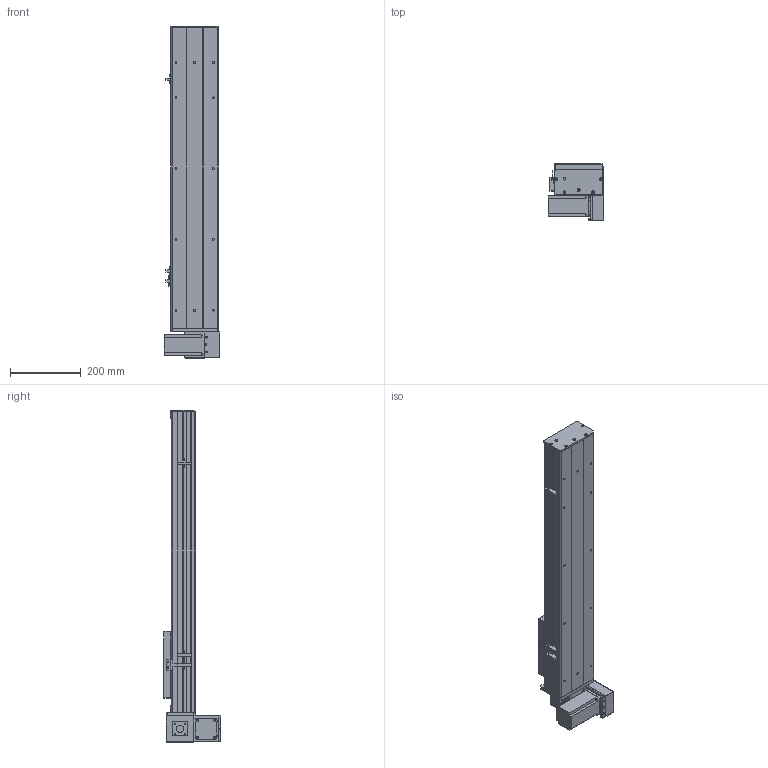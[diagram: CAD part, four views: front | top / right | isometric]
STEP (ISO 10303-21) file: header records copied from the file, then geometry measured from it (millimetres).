
FILE_DESCRIPTION (( 'STEP AP203' ), '1' );
FILE_NAME ('Y135CB-D90-S550-BM-P400W.STEP', '2020-02-18T09:20:14', ( '微软用户' ), ( '微软中国' ), 'SwSTEP 2.0', 'SolidWorks 2017', '' );
FILE_SCHEMA (( 'CONFIG_CONTROL_DESIGN' ));
Length unit declared in the file: millimetre
Products named in the file (18): Y10B--々湍喘謫眊--666; san松下电机400不带刹车----; 00B-俋欶BM--; 5CB --掛极耜裔啣-; Y10B-耜蚾蟀諉啣----; C-詩湍揤踡え-陔; Y135CB-耜裔; Y135CB-D90-S550-BM-P400W; 135CB--詩湍-CE; 135CB---遴掛极.-; Y100-135俋离換覜ん--; 35CB---喘謫眊楊擘啣; Y135C-陔俋离換覜結え-; 0B-埴倛裔啣; 5C--俋欶; 0B-源倛裔啣; C-雄赽釱--; 0B-萇儂楊擘啣
Assembly tree (21 placements, depth 2):
  Y135CB-D90-S550-BM-P400W
    Y135CB-耜裔
    135CB---遴掛极.-
    35CB---喘謫眊楊擘啣
    0B-埴倛裔啣
    0B-源倛裔啣
    0B-萇儂楊擘啣
    san松下电机400不带刹车----
    5CB --掛极耜裔啣-  x2
    C-詩湍揤踡え-陔  x2
    135CB--詩湍-CE
    Y100-135俋离換覜ん--  x3
    Y135C-陔俋离換覜結え-
    5C--俋欶
    C-雄赽釱--
    Y10B--々湍喘謫眊--666
    00B-俋欶BM--
    Y10B-耜蚾蟀諉啣----
Bounding box: 157 x 163.3 x 938 mm (x, y, z)
Volume: 3217785.7 mm3; surface area: 1247110.9 mm2
Topology: 21 solids, 21 shells, 937 faces, 2491 edges, 1650 vertices
Faces by surface type: cylinder 465, plane 456, cone 16
Entity records: 28945 total; most frequent: DIRECTION 4807, CARTESIAN_POINT 4724, ORIENTED_EDGE 4458, EDGE_CURVE 2229, AXIS2_PLACEMENT_3D 1749, VERTEX_POINT 1478, VECTOR 1309, LINE 1309
